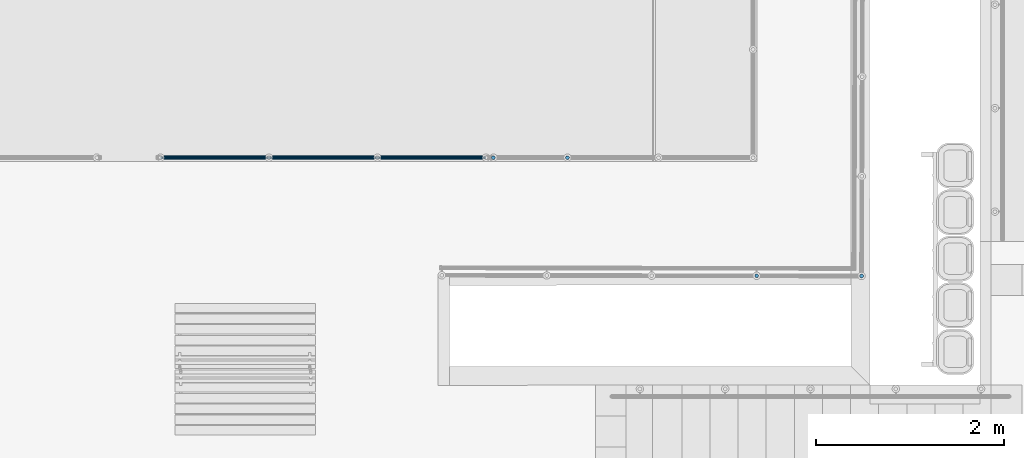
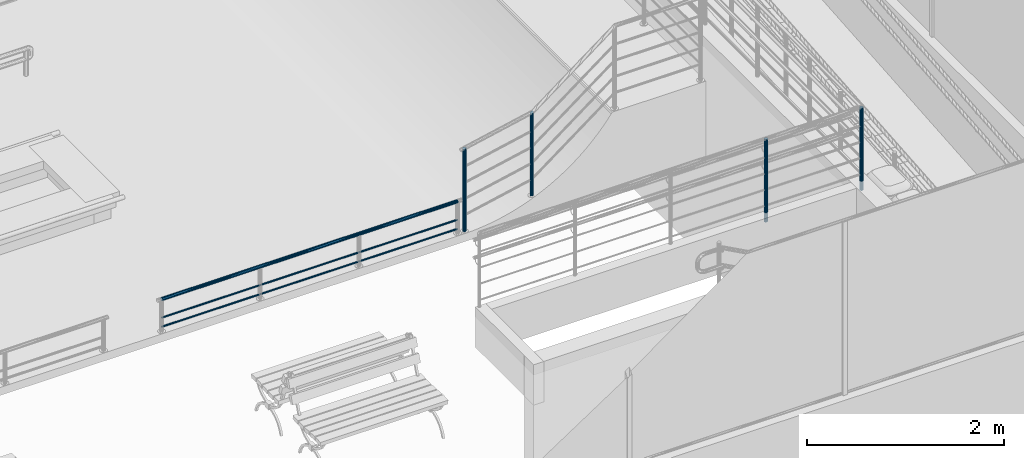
# One storey, part 42 of 237: 7 building element parts, 3 elements without a shape of their own.
"""IFC2X3 building model written with IfcOpenShell, lengths in millimetres."""

from ifc_helpers import new_model, entity, si_unit, converted_unit, derived_unit, money_unit, direction, frame, origin_with_axes, place, context, subcontext, project, spatial, faceted_brep, material, type_object, element, aggregate, save


model = new_model("IFC2X3")

# Units and contexts
model_context = context("Model", 3, precision=0.01, world=origin_with_axes(), true_north=direction((0.0, 1.0)))
body_context = subcontext(model_context, "Body", "Model", "MODEL_VIEW")
ifc_project = project(units=[si_unit("LENGTHUNIT", "METRE", prefix="MILLI"), si_unit("AREAUNIT", "SQUARE_METRE"), si_unit("VOLUMEUNIT", "CUBIC_METRE"), converted_unit("PLANEANGLEUNIT", "DEGREE", entity("IfcPlaneAngleMeasure", 0.0174532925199), si_unit("PLANEANGLEUNIT", "RADIAN"), dimensions=[0, 0, 0, 0, 0, 0, 0]), money_unit("USD"), converted_unit("TIMEUNIT", "Year", entity("IfcTimeMeasure", 31556926.0), si_unit("TIMEUNIT", "SECOND"), dimensions=[0, 0, 1, 0, 0, 0, 0]), si_unit("MASSUNIT", "GRAM", prefix="KILO"), si_unit("THERMODYNAMICTEMPERATUREUNIT", "DEGREE_CELSIUS"), si_unit("LUMINOUSINTENSITYUNIT", "LUMEN"), si_unit("ENERGYUNIT", "JOULE", prefix="MEGA"), derived_unit("THERMALCONDUCTANCEUNIT", [(si_unit("POWERUNIT", "WATT"), 1), (si_unit("LENGTHUNIT", "METRE"), -1), (si_unit("THERMODYNAMICTEMPERATUREUNIT", "KELVIN"), -1)]), derived_unit("SPECIFICHEATCAPACITYUNIT", [(si_unit("ENERGYUNIT", "JOULE"), 1), (si_unit("MASSUNIT", "GRAM", prefix="KILO"), -1), (si_unit("THERMODYNAMICTEMPERATUREUNIT", "KELVIN"), -1)]), derived_unit("MASSDENSITYUNIT", [(si_unit("MASSUNIT", "GRAM", prefix="KILO"), 1), (si_unit("VOLUMEUNIT", "CUBIC_METRE"), -1)])], contexts=[model_context])

# Site, building, storey
site_placement = place(None, origin_with_axes())
site = spatial("IfcSite", under=ifc_project, at=site_placement, Name="Local", CompositionType="ELEMENT")
building_placement = place(site_placement, origin_with_axes())
building = spatial("IfcBuilding", under=site, at=building_placement, Name="Construção", CompositionType="ELEMENT")
storey_placement = place(building_placement, origin_with_axes())
storey = spatial("IfcBuildingStorey", under=building, at=storey_placement, Name="Pavimento Térreo", CompositionType="ELEMENT", Elevation=0.0)

# Railing, building element parts
railing_type = type_object("IfcRailingType", Name="Tipo de Guarda-Corpo", PredefinedType="NOTDEFINED")
railing_1_placement = place(storey_placement, frame((58062.4440926, 28006.4497128, -1887.10818411), z_axis=(0.0, 0.0, 1.0), x_axis=(1.0, 0.0, 0.0)))
railing_1 = element("IfcRailing", 1, at=railing_1_placement, inside=storey, type_object=railing_type, Name="Guarda-Corpo - 002", PredefinedType="NOTDEFINED")
ifc_material = material(Name="Aço - Inoxidável")
building_element_part_1_placement = place(railing_1_placement, origin_with_axes())
building_element_part_1 = element("IfcBuildingElementPart", 2, at=building_element_part_1_placement, material=ifc_material, Name="Aço - Inoxidável", context=body_context, shape_type="Brep", body=[
    faceted_brep([(40.0, 98.4865411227, 1030.0), (40.0, 98.182696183, 1033.47296355), (3510.0, 98.182696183, 1033.47296355), (3510.0, 98.4865411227, 1030.0), (40.0, 98.182696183, 1026.52703645), (40.0, 97.2803935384, 1023.15959713), (40.0, 95.8070491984, 1020.0), (40.0, 93.8074299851, 1017.14424781), (40.0, 91.3422933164, 1014.67911114), (40.0, 88.4865411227, 1012.67949192), (40.0, 85.3269439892, 1011.20614758), (40.0, 81.9595046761, 1010.30384494), (40.0, 78.4865411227, 1010.0), (40.0, 75.0135775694, 1010.30384494), (40.0, 71.6461382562, 1011.20614758), (40.0, 68.4865411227, 1012.67949192), (40.0, 65.630788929, 1014.67911114), (40.0, 63.1656522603, 1017.14424781), (40.0, 61.166033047, 1020.0), (40.0, 59.692688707, 1023.15959713), (40.0, 58.7903860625, 1026.52703645), (40.0, 58.4865411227, 1030.0), (40.0, 58.7903860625, 1033.47296355), (40.0, 59.692688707, 1036.84040287), (40.0, 61.166033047, 1040.0), (40.0, 63.1656522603, 1042.85575219), (40.0, 65.630788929, 1045.32088886), (40.0, 68.4865411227, 1047.32050808), (40.0, 71.6461382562, 1048.79385242), (40.0, 75.0135775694, 1049.69615506), (40.0, 78.4865411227, 1050.0), (40.0, 81.9595046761, 1049.69615506), (40.0, 85.3269439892, 1048.79385242), (40.0, 88.4865411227, 1047.32050808), (40.0, 91.3422933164, 1045.32088886), (40.0, 93.8074299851, 1042.85575219), (40.0, 95.8070491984, 1040.0), (40.0, 97.2803935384, 1036.84040287), (3510.0, 97.2803935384, 1036.84040287), (3510.0, 95.8070491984, 1040.0), (3510.0, 93.8074299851, 1042.85575219), (3510.0, 91.3422933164, 1045.32088886), (3510.0, 88.4865411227, 1047.32050808), (3510.0, 85.3269439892, 1048.79385242), (3510.0, 81.9595046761, 1049.69615506), (3510.0, 78.4865411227, 1050.0), (3510.0, 75.0135775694, 1049.69615506), (3510.0, 71.6461382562, 1048.79385242), (3510.0, 68.4865411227, 1047.32050808), (3510.0, 65.630788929, 1045.32088886), (3510.0, 63.1656522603, 1042.85575219), (3510.0, 61.166033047, 1040.0), (3510.0, 59.692688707, 1036.84040287), (3510.0, 58.7903860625, 1033.47296355), (3510.0, 58.4865411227, 1030.0), (3510.0, 58.7903860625, 1026.52703645), (3510.0, 59.692688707, 1023.15959713), (3510.0, 61.166033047, 1020.0), (3510.0, 63.1656522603, 1017.14424781), (3510.0, 65.630788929, 1014.67911114), (3510.0, 68.4865411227, 1012.67949192), (3510.0, 71.6461382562, 1011.20614758), (3510.0, 75.0135775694, 1010.30384494), (3510.0, 78.4865411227, 1010.0), (3510.0, 81.9595046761, 1010.30384494), (3510.0, 85.3269439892, 1011.20614758), (3510.0, 88.4865411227, 1012.67949192), (3510.0, 91.3422933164, 1014.67911114), (3510.0, 93.8074299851, 1017.14424781), (3510.0, 95.8070491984, 1020.0), (3510.0, 97.2803935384, 1023.15959713), (3510.0, 98.182696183, 1026.52703645)], [[[0, 1, 2, 3]], [[0, 4, 5, 6, 7, 8, 9, 10, 11, 12, 13, 14, 15, 16, 17, 18, 19, 20, 21, 22, 23, 24, 25, 26, 27, 28, 29, 30, 31, 32, 33, 34, 35, 36, 37, 1]], [[1, 37, 38, 2]], [[3, 2, 38, 39, 40, 41, 42, 43, 44, 45, 46, 47, 48, 49, 50, 51, 52, 53, 54, 55, 56, 57, 58, 59, 60, 61, 62, 63, 64, 65, 66, 67, 68, 69, 70, 71]], [[4, 0, 3, 71]], [[5, 4, 71, 70]], [[6, 5, 70, 69]], [[7, 6, 69, 68]], [[8, 7, 68, 67]], [[9, 8, 67, 66]], [[10, 9, 66, 65]], [[11, 10, 65, 64]], [[12, 11, 64, 63]], [[13, 12, 63, 62]], [[14, 13, 62, 61]], [[15, 14, 61, 60]], [[16, 15, 60, 59]], [[17, 16, 59, 58]], [[18, 17, 58, 57]], [[19, 18, 57, 56]], [[20, 19, 56, 55]], [[21, 20, 55, 54]], [[22, 21, 54, 53]], [[23, 22, 53, 52]], [[24, 23, 52, 51]], [[25, 24, 51, 50]], [[26, 25, 50, 49]], [[27, 26, 49, 48]], [[28, 27, 48, 47]], [[29, 28, 47, 46]], [[30, 29, 46, 45]], [[31, 30, 45, 44]], [[32, 31, 44, 43]], [[33, 32, 43, 42]], [[34, 33, 42, 41]], [[35, 34, 41, 40]], [[36, 35, 40, 39]], [[37, 36, 39, 38]]]),
])
building_element_part_2_placement = place(railing_1_placement, origin_with_axes())
building_element_part_2 = element("IfcBuildingElementPart", 3, at=building_element_part_2_placement, material=ifc_material, Name="Aço - Inoxidável", context=body_context, shape_type="Brep", body=[
    faceted_brep([(40.0, 88.4865411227, 687.132352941), (40.0, 88.3346186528, 688.868834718), (3510.0, 88.3346186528, 688.868834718), (3510.0, 88.4865411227, 687.132352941), (40.0, 88.3346186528, 685.395871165), (40.0, 87.8834673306, 683.712151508), (40.0, 87.1467951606, 682.132352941), (40.0, 86.1469855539, 680.704476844), (40.0, 84.9144172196, 679.47190851), (40.0, 83.4865411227, 678.472098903), (40.0, 81.906742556, 677.735426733), (40.0, 80.2230228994, 677.284275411), (40.0, 78.4865411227, 677.132352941), (40.0, 76.7500593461, 677.284275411), (40.0, 75.0663396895, 677.735426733), (40.0, 73.4865411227, 678.472098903), (40.0, 72.0586650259, 679.47190851), (40.0, 70.8260966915, 680.704476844), (40.0, 69.8262870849, 682.132352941), (40.0, 69.0896149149, 683.712151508), (40.0, 68.6384635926, 685.395871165), (40.0, 68.4865411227, 687.132352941), (40.0, 68.6384635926, 688.868834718), (40.0, 69.0896149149, 690.552554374), (40.0, 69.8262870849, 692.132352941), (40.0, 70.8260966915, 693.560229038), (40.0, 72.0586650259, 694.792797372), (40.0, 73.4865411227, 695.792606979), (40.0, 75.0663396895, 696.529279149), (40.0, 76.7500593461, 696.980430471), (40.0, 78.4865411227, 697.132352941), (40.0, 80.2230228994, 696.980430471), (40.0, 81.906742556, 696.529279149), (40.0, 83.4865411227, 695.792606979), (40.0, 84.9144172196, 694.792797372), (40.0, 86.1469855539, 693.560229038), (40.0, 87.1467951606, 692.132352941), (40.0, 87.8834673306, 690.552554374), (3510.0, 87.8834673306, 690.552554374), (3510.0, 87.1467951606, 692.132352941), (3510.0, 86.1469855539, 693.560229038), (3510.0, 84.9144172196, 694.792797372), (3510.0, 83.4865411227, 695.792606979), (3510.0, 81.906742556, 696.529279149), (3510.0, 80.2230228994, 696.980430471), (3510.0, 78.4865411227, 697.132352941), (3510.0, 76.7500593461, 696.980430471), (3510.0, 75.0663396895, 696.529279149), (3510.0, 73.4865411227, 695.792606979), (3510.0, 72.0586650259, 694.792797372), (3510.0, 70.8260966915, 693.560229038), (3510.0, 69.8262870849, 692.132352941), (3510.0, 69.0896149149, 690.552554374), (3510.0, 68.6384635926, 688.868834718), (3510.0, 68.4865411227, 687.132352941), (3510.0, 68.6384635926, 685.395871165), (3510.0, 69.0896149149, 683.712151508), (3510.0, 69.8262870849, 682.132352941), (3510.0, 70.8260966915, 680.704476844), (3510.0, 72.0586650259, 679.47190851), (3510.0, 73.4865411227, 678.472098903), (3510.0, 75.0663396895, 677.735426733), (3510.0, 76.7500593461, 677.284275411), (3510.0, 78.4865411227, 677.132352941), (3510.0, 80.2230228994, 677.284275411), (3510.0, 81.906742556, 677.735426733), (3510.0, 83.4865411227, 678.472098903), (3510.0, 84.9144172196, 679.47190851), (3510.0, 86.1469855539, 680.704476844), (3510.0, 87.1467951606, 682.132352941), (3510.0, 87.8834673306, 683.712151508), (3510.0, 88.3346186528, 685.395871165)], [[[0, 1, 2, 3]], [[0, 4, 5, 6, 7, 8, 9, 10, 11, 12, 13, 14, 15, 16, 17, 18, 19, 20, 21, 22, 23, 24, 25, 26, 27, 28, 29, 30, 31, 32, 33, 34, 35, 36, 37, 1]], [[1, 37, 38, 2]], [[3, 2, 38, 39, 40, 41, 42, 43, 44, 45, 46, 47, 48, 49, 50, 51, 52, 53, 54, 55, 56, 57, 58, 59, 60, 61, 62, 63, 64, 65, 66, 67, 68, 69, 70, 71]], [[4, 0, 3, 71]], [[5, 4, 71, 70]], [[6, 5, 70, 69]], [[7, 6, 69, 68]], [[8, 7, 68, 67]], [[9, 8, 67, 66]], [[10, 9, 66, 65]], [[11, 10, 65, 64]], [[12, 11, 64, 63]], [[13, 12, 63, 62]], [[14, 13, 62, 61]], [[15, 14, 61, 60]], [[16, 15, 60, 59]], [[17, 16, 59, 58]], [[18, 17, 58, 57]], [[19, 18, 57, 56]], [[20, 19, 56, 55]], [[21, 20, 55, 54]], [[22, 21, 54, 53]], [[23, 22, 53, 52]], [[24, 23, 52, 51]], [[25, 24, 51, 50]], [[26, 25, 50, 49]], [[27, 26, 49, 48]], [[28, 27, 48, 47]], [[29, 28, 47, 46]], [[30, 29, 46, 45]], [[31, 30, 45, 44]], [[32, 31, 44, 43]], [[33, 32, 43, 42]], [[34, 33, 42, 41]], [[35, 34, 41, 40]], [[36, 35, 40, 39]], [[37, 36, 39, 38]]]),
])
building_element_part_3_placement = place(railing_1_placement, origin_with_axes())
building_element_part_3 = element("IfcBuildingElementPart", 4, at=building_element_part_3_placement, material=ifc_material, Name="Aço - Inoxidável", context=body_context, shape_type="Brep", body=[
    faceted_brep([(40.0, 88.4865411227, 800.0), (40.0, 88.3346186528, 801.736481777), (3510.0, 88.3346186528, 801.736481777), (3510.0, 88.4865411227, 800.0), (40.0, 88.3346186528, 798.263518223), (40.0, 87.8834673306, 796.579798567), (40.0, 87.1467951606, 795.0), (40.0, 86.1469855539, 793.572123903), (40.0, 84.9144172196, 792.339555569), (40.0, 83.4865411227, 791.339745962), (40.0, 81.906742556, 790.603073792), (40.0, 80.2230228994, 790.15192247), (40.0, 78.4865411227, 790.0), (40.0, 76.7500593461, 790.15192247), (40.0, 75.0663396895, 790.603073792), (40.0, 73.4865411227, 791.339745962), (40.0, 72.0586650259, 792.339555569), (40.0, 70.8260966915, 793.572123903), (40.0, 69.8262870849, 795.0), (40.0, 69.0896149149, 796.579798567), (40.0, 68.6384635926, 798.263518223), (40.0, 68.4865411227, 800.0), (40.0, 68.6384635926, 801.736481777), (40.0, 69.0896149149, 803.420201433), (40.0, 69.8262870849, 805.0), (40.0, 70.8260966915, 806.427876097), (40.0, 72.0586650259, 807.660444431), (40.0, 73.4865411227, 808.660254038), (40.0, 75.0663396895, 809.396926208), (40.0, 76.7500593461, 809.84807753), (40.0, 78.4865411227, 810.0), (40.0, 80.2230228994, 809.84807753), (40.0, 81.906742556, 809.396926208), (40.0, 83.4865411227, 808.660254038), (40.0, 84.9144172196, 807.660444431), (40.0, 86.1469855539, 806.427876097), (40.0, 87.1467951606, 805.0), (40.0, 87.8834673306, 803.420201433), (3510.0, 87.8834673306, 803.420201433), (3510.0, 87.1467951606, 805.0), (3510.0, 86.1469855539, 806.427876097), (3510.0, 84.9144172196, 807.660444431), (3510.0, 83.4865411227, 808.660254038), (3510.0, 81.906742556, 809.396926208), (3510.0, 80.2230228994, 809.84807753), (3510.0, 78.4865411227, 810.0), (3510.0, 76.7500593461, 809.84807753), (3510.0, 75.0663396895, 809.396926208), (3510.0, 73.4865411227, 808.660254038), (3510.0, 72.0586650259, 807.660444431), (3510.0, 70.8260966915, 806.427876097), (3510.0, 69.8262870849, 805.0), (3510.0, 69.0896149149, 803.420201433), (3510.0, 68.6384635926, 801.736481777), (3510.0, 68.4865411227, 800.0), (3510.0, 68.6384635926, 798.263518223), (3510.0, 69.0896149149, 796.579798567), (3510.0, 69.8262870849, 795.0), (3510.0, 70.8260966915, 793.572123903), (3510.0, 72.0586650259, 792.339555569), (3510.0, 73.4865411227, 791.339745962), (3510.0, 75.0663396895, 790.603073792), (3510.0, 76.7500593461, 790.15192247), (3510.0, 78.4865411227, 790.0), (3510.0, 80.2230228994, 790.15192247), (3510.0, 81.906742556, 790.603073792), (3510.0, 83.4865411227, 791.339745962), (3510.0, 84.9144172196, 792.339555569), (3510.0, 86.1469855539, 793.572123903), (3510.0, 87.1467951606, 795.0), (3510.0, 87.8834673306, 796.579798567), (3510.0, 88.3346186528, 798.263518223)], [[[0, 1, 2, 3]], [[0, 4, 5, 6, 7, 8, 9, 10, 11, 12, 13, 14, 15, 16, 17, 18, 19, 20, 21, 22, 23, 24, 25, 26, 27, 28, 29, 30, 31, 32, 33, 34, 35, 36, 37, 1]], [[1, 37, 38, 2]], [[3, 2, 38, 39, 40, 41, 42, 43, 44, 45, 46, 47, 48, 49, 50, 51, 52, 53, 54, 55, 56, 57, 58, 59, 60, 61, 62, 63, 64, 65, 66, 67, 68, 69, 70, 71]], [[4, 0, 3, 71]], [[5, 4, 71, 70]], [[6, 5, 70, 69]], [[7, 6, 69, 68]], [[8, 7, 68, 67]], [[9, 8, 67, 66]], [[10, 9, 66, 65]], [[11, 10, 65, 64]], [[12, 11, 64, 63]], [[13, 12, 63, 62]], [[14, 13, 62, 61]], [[15, 14, 61, 60]], [[16, 15, 60, 59]], [[17, 16, 59, 58]], [[18, 17, 58, 57]], [[19, 18, 57, 56]], [[20, 19, 56, 55]], [[21, 20, 55, 54]], [[22, 21, 54, 53]], [[23, 22, 53, 52]], [[24, 23, 52, 51]], [[25, 24, 51, 50]], [[26, 25, 50, 49]], [[27, 26, 49, 48]], [[28, 27, 48, 47]], [[29, 28, 47, 46]], [[30, 29, 46, 45]], [[31, 30, 45, 44]], [[32, 31, 44, 43]], [[33, 32, 43, 42]], [[34, 33, 42, 41]], [[35, 34, 41, 40]], [[36, 35, 40, 39]], [[37, 36, 39, 38]]]),
])
aggregate(railing_1, [building_element_part_1, building_element_part_2, building_element_part_3])

railing_2_placement = place(storey_placement, frame((70326.6870103, 28675.2458388, -1357.10819655), z_axis=(0.0, 0.0, 1.0), x_axis=(1.0, 0.0, 0.0)))
railing_2 = element("IfcRailing", 5, at=railing_2_placement, inside=storey, type_object=railing_type, Name="Guarda-Corpo - 004", PredefinedType="NOTDEFINED")
building_element_part_4_placement = place(railing_2_placement, origin_with_axes())
building_element_part_4 = element("IfcBuildingElementPart", 6, at=building_element_part_4_placement, material=ifc_material, Name="Aço - Inoxidável", context=body_context, shape_type="Brep", body=[
    faceted_brep([(-4750.84743411, -1872.37618805, 5.0), (-4747.37496013, -1872.68557785, 5.0), (-4747.37496013, -1872.68557785, 1030.0), (-4750.84743411, -1872.37618805, 1030.0), (-4743.90151586, -1872.38727855, 5.0), (-4754.21342843, -1871.46850979, 5.0), (-4757.37066906, -1869.99012243, 5.0), (-4760.22322484, -1867.98594601, 5.0), (-4762.6844223, -1865.51687642, 5.0), (-4764.67947921, -1862.65793509, 5.0), (-4766.14777677, -1859.49598951, 5.0), (-4767.04470151, -1856.12711379, 5.0), (-4767.34300081, -1852.65366952, 5.0), (-4767.033611, -1849.18119554, 5.0), (-4766.12593275, -1845.81520121, 5.0), (-4764.64754538, -1842.65796058, 5.0), (-4762.64336896, -1839.80540481, 5.0), (-4760.17429937, -1837.34420734, 5.0), (-4757.31535805, -1835.34915043, 5.0), (-4754.15341246, -1833.88085287, 5.0), (-4750.78453674, -1832.98392814, 5.0), (-4747.31109247, -1832.68562884, 5.0), (-4743.83861849, -1832.99501864, 5.0), (-4740.47262417, -1833.9026969, 5.0), (-4737.31538354, -1835.38108426, 5.0), (-4734.46282776, -1837.38526068, 5.0), (-4732.0016303, -1839.85433027, 5.0), (-4730.00657339, -1842.7132716, 5.0), (-4728.53827583, -1845.87521718, 5.0), (-4727.6413511, -1849.2440929, 5.0), (-4727.3430518, -1852.71753718, 5.0), (-4727.6524416, -1856.19001115, 5.0), (-4728.56011986, -1859.55600548, 5.0), (-4730.03850722, -1862.71324611, 5.0), (-4732.04268364, -1865.56580188, 5.0), (-4734.51175323, -1868.02699935, 5.0), (-4737.37069456, -1870.02205626, 5.0), (-4740.53264014, -1871.49035382, 5.0), (-4743.90151586, -1872.38727855, 1030.0), (-4767.033611, -1849.18119554, 1030.0), (-4767.34300081, -1852.65366952, 1030.0), (-4767.04470151, -1856.12711379, 1030.0), (-4766.14777677, -1859.49598951, 1030.0), (-4764.67947921, -1862.65793509, 1030.0), (-4762.6844223, -1865.51687642, 1030.0), (-4760.22322484, -1867.98594601, 1030.0), (-4757.37066906, -1869.99012243, 1030.0), (-4754.21342843, -1871.46850979, 1030.0), (-4740.53264014, -1871.49035382, 1030.0), (-4737.37069456, -1870.02205626, 1030.0), (-4734.51175323, -1868.02699935, 1030.0), (-4732.04268364, -1865.56580188, 1030.0), (-4730.03850722, -1862.71324611, 1030.0), (-4728.56011986, -1859.55600548, 1030.0), (-4727.6524416, -1856.19001115, 1030.0), (-4727.3430518, -1852.71753718, 1030.0), (-4727.6413511, -1849.2440929, 1030.0), (-4728.53827583, -1845.87521718, 1030.0), (-4730.00657339, -1842.7132716, 1030.0), (-4732.0016303, -1839.85433027, 1030.0), (-4734.46282776, -1837.38526068, 1030.0), (-4737.31538354, -1835.38108426, 1030.0), (-4740.47262417, -1833.9026969, 1030.0), (-4743.83861849, -1832.99501864, 1030.0), (-4747.31109247, -1832.68562884, 1030.0), (-4750.78453674, -1832.98392814, 1030.0), (-4754.15341246, -1833.88085287, 1030.0), (-4757.31535805, -1835.34915043, 1030.0), (-4760.17429937, -1837.34420734, 1030.0), (-4762.64336896, -1839.80540481, 1030.0), (-4764.64754538, -1842.65796058, 1030.0), (-4766.12593275, -1845.81520121, 1030.0)], [[[0, 1, 2, 3]], [[4, 1, 0, 5, 6, 7, 8, 9, 10, 11, 12, 13, 14, 15, 16, 17, 18, 19, 20, 21, 22, 23, 24, 25, 26, 27, 28, 29, 30, 31, 32, 33, 34, 35, 36, 37]], [[1, 4, 38, 2]], [[39, 40, 41, 42, 43, 44, 45, 46, 47, 3, 2, 38, 48, 49, 50, 51, 52, 53, 54, 55, 56, 57, 58, 59, 60, 61, 62, 63, 64, 65, 66, 67, 68, 69, 70, 71]], [[5, 0, 3, 47]], [[6, 5, 47, 46]], [[7, 6, 46, 45]], [[8, 7, 45, 44]], [[9, 8, 44, 43]], [[10, 9, 43, 42]], [[11, 10, 42, 41]], [[12, 11, 41, 40]], [[13, 12, 40, 39]], [[14, 13, 39, 71]], [[15, 14, 71, 70]], [[16, 15, 70, 69]], [[17, 16, 69, 68]], [[18, 17, 68, 67]], [[19, 18, 67, 66]], [[20, 19, 66, 65]], [[21, 20, 65, 64]], [[22, 21, 64, 63]], [[23, 22, 63, 62]], [[24, 23, 62, 61]], [[25, 24, 61, 60]], [[26, 25, 60, 59]], [[27, 26, 59, 58]], [[28, 27, 58, 57]], [[29, 28, 57, 56]], [[30, 29, 56, 55]], [[31, 30, 55, 54]], [[32, 31, 54, 53]], [[33, 32, 53, 52]], [[34, 33, 52, 51]], [[35, 34, 51, 50]], [[36, 35, 50, 49]], [[37, 36, 49, 48]], [[4, 37, 48, 38]]]),
])
building_element_part_5_placement = place(railing_2_placement, origin_with_axes())
building_element_part_5 = element("IfcBuildingElementPart", 7, at=building_element_part_5_placement, material=ifc_material, Name="Aço - Inoxidável", context=body_context, shape_type="Brep", body=[
    faceted_brep([(-5870.09426693, -1870.58909387, 5.0), (-5866.62179295, -1870.89848367, 5.0), (-5866.62179295, -1870.89848367, 1030.0), (-5870.09426693, -1870.58909387, 1030.0), (-5863.14834867, -1870.60018437, 5.0), (-5873.46026125, -1869.68141561, 5.0), (-5876.61750188, -1868.20302825, 5.0), (-5879.47005766, -1866.19885183, 5.0), (-5881.93125512, -1863.72978224, 5.0), (-5883.92631203, -1860.87084091, 5.0), (-5885.39460959, -1857.70889533, 5.0), (-5886.29153432, -1854.34001961, 5.0), (-5886.58983362, -1850.86657534, 5.0), (-5886.28044382, -1847.39410136, 5.0), (-5885.37276556, -1844.02810704, 5.0), (-5883.8943782, -1840.87086641, 5.0), (-5881.89020178, -1838.01831063, 5.0), (-5879.42113219, -1835.55711316, 5.0), (-5876.56219086, -1833.56205626, 5.0), (-5873.40024528, -1832.0937587, 5.0), (-5870.03136956, -1831.19683396, 5.0), (-5866.55792529, -1830.89853466, 5.0), (-5863.08545131, -1831.20792447, 5.0), (-5859.71945699, -1832.11560272, 5.0), (-5856.56221636, -1833.59399009, 5.0), (-5853.70966058, -1835.59816651, 5.0), (-5851.24846312, -1838.06723609, 5.0), (-5849.25340621, -1840.92617742, 5.0), (-5847.78510865, -1844.08812301, 5.0), (-5846.88818391, -1847.45699872, 5.0), (-5846.58988461, -1850.930443, 5.0), (-5846.89927442, -1854.40291698, 5.0), (-5847.80695267, -1857.7689113, 5.0), (-5849.28534004, -1860.92615193, 5.0), (-5851.28951646, -1863.77870771, 5.0), (-5853.75858604, -1866.23990517, 5.0), (-5856.61752737, -1868.23496208, 5.0), (-5859.77947296, -1869.70325964, 5.0), (-5863.14834867, -1870.60018437, 1030.0), (-5886.28044382, -1847.39410136, 1030.0), (-5886.58983362, -1850.86657534, 1030.0), (-5886.29153432, -1854.34001961, 1030.0), (-5885.39460959, -1857.70889533, 1030.0), (-5883.92631203, -1860.87084091, 1030.0), (-5881.93125512, -1863.72978224, 1030.0), (-5879.47005766, -1866.19885183, 1030.0), (-5876.61750188, -1868.20302825, 1030.0), (-5873.46026125, -1869.68141561, 1030.0), (-5859.77947296, -1869.70325964, 1030.0), (-5856.61752737, -1868.23496208, 1030.0), (-5853.75858604, -1866.23990517, 1030.0), (-5851.28951646, -1863.77870771, 1030.0), (-5849.28534004, -1860.92615193, 1030.0), (-5847.80695267, -1857.7689113, 1030.0), (-5846.89927442, -1854.40291698, 1030.0), (-5846.58988461, -1850.930443, 1030.0), (-5846.88818391, -1847.45699872, 1030.0), (-5847.78510865, -1844.08812301, 1030.0), (-5849.25340621, -1840.92617742, 1030.0), (-5851.24846312, -1838.06723609, 1030.0), (-5853.70966058, -1835.59816651, 1030.0), (-5856.56221636, -1833.59399009, 1030.0), (-5859.71945699, -1832.11560272, 1030.0), (-5863.08545131, -1831.20792447, 1030.0), (-5866.55792529, -1830.89853466, 1030.0), (-5870.03136956, -1831.19683396, 1030.0), (-5873.40024528, -1832.0937587, 1030.0), (-5876.56219086, -1833.56205626, 1030.0), (-5879.42113219, -1835.55711316, 1030.0), (-5881.89020178, -1838.01831063, 1030.0), (-5883.8943782, -1840.87086641, 1030.0), (-5885.37276556, -1844.02810704, 1030.0)], [[[0, 1, 2, 3]], [[4, 1, 0, 5, 6, 7, 8, 9, 10, 11, 12, 13, 14, 15, 16, 17, 18, 19, 20, 21, 22, 23, 24, 25, 26, 27, 28, 29, 30, 31, 32, 33, 34, 35, 36, 37]], [[1, 4, 38, 2]], [[39, 40, 41, 42, 43, 44, 45, 46, 47, 3, 2, 38, 48, 49, 50, 51, 52, 53, 54, 55, 56, 57, 58, 59, 60, 61, 62, 63, 64, 65, 66, 67, 68, 69, 70, 71]], [[5, 0, 3, 47]], [[6, 5, 47, 46]], [[7, 6, 46, 45]], [[8, 7, 45, 44]], [[9, 8, 44, 43]], [[10, 9, 43, 42]], [[11, 10, 42, 41]], [[12, 11, 41, 40]], [[13, 12, 40, 39]], [[14, 13, 39, 71]], [[15, 14, 71, 70]], [[16, 15, 70, 69]], [[17, 16, 69, 68]], [[18, 17, 68, 67]], [[19, 18, 67, 66]], [[20, 19, 66, 65]], [[21, 20, 65, 64]], [[22, 21, 64, 63]], [[23, 22, 63, 62]], [[24, 23, 62, 61]], [[25, 24, 61, 60]], [[26, 25, 60, 59]], [[27, 26, 59, 58]], [[28, 27, 58, 57]], [[29, 28, 57, 56]], [[30, 29, 56, 55]], [[31, 30, 55, 54]], [[32, 31, 54, 53]], [[33, 32, 53, 52]], [[34, 33, 52, 51]], [[35, 34, 51, 50]], [[36, 35, 50, 49]], [[37, 36, 49, 48]], [[4, 37, 48, 38]]]),
])
aggregate(railing_2, [building_element_part_4, building_element_part_5])

railing_3_placement = place(storey_placement, frame((61612.4440926, 28006.4497128, -1265.99547451), z_axis=(0.0, 0.0, 1.0), x_axis=(-1.0, 0.0, 0.0)))
railing_3 = element("IfcRailing", 8, at=railing_3_placement, inside=storey, type_object=railing_type, Name="Guarda-Corpo - 001", PredefinedType="NOTDEFINED")
building_element_part_6_placement = place(railing_3_placement, origin_with_axes())
building_element_part_6 = element("IfcBuildingElementPart", 9, at=building_element_part_6_placement, material=ifc_material, Name="Aço - Inoxidável", context=body_context, shape_type="Brep", body=[
    faceted_brep([(-36.5270364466, -58.7903860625, 13.4412193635), (-40.0, -58.4865411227, 13.4412193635), (-40.0, -58.4865411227, 1038.44121936), (-36.5270364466, -58.7903860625, 1037.70831818), (-43.4729635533, -58.7903860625, 13.4412193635), (-33.1595971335, -59.692688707, 13.4412193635), (-30.0, -61.166033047, 13.4412193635), (-27.1442478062, -63.1656522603, 13.4412193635), (-24.6791111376, -65.630788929, 13.4412193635), (-22.6794919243, -68.4865411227, 13.4412193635), (-21.2061475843, -71.6461382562, 13.4412193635), (-20.3038449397, -75.0135775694, 13.4412193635), (-20.0, -78.4865411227, 13.4412193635), (-20.3038449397, -81.9595046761, 13.4412193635), (-21.2061475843, -85.3269439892, 13.4412193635), (-22.6794919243, -88.4865411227, 13.4412193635), (-24.6791111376, -91.3422933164, 13.4412193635), (-27.1442478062, -93.8074299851, 13.4412193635), (-30.0, -95.8070491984, 13.4412193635), (-33.1595971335, -97.2803935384, 13.4412193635), (-36.5270364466, -98.182696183, 13.4412193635), (-40.0, -98.4865411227, 13.4412193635), (-43.4729635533, -98.182696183, 13.4412193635), (-46.8404028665, -97.2803935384, 13.4412193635), (-50.0, -95.8070491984, 13.4412193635), (-52.8557521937, -93.8074299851, 13.4412193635), (-55.3208888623, -91.3422933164, 13.4412193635), (-57.3205080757, -88.4865411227, 13.4412193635), (-58.7938524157, -85.3269439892, 13.4412193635), (-59.6961550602, -81.9595046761, 13.4412193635), (-60.0, -78.4865411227, 13.4412193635), (-59.6961550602, -75.0135775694, 13.4412193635), (-58.7938524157, -71.6461382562, 13.4412193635), (-57.3205080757, -68.4865411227, 13.4412193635), (-55.3208888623, -65.630788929, 13.4412193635), (-52.8557521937, -63.1656522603, 13.4412193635), (-50.0, -61.166033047, 13.4412193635), (-46.8404028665, -59.692688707, 13.4412193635), (-43.4729635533, -58.7903860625, 1039.17412054), (-20.3038449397, -81.9595046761, 1034.28473023), (-20.0, -78.4865411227, 1034.22060968), (-20.3038449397, -75.0135775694, 1034.28473023), (-21.2061475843, -71.6461382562, 1034.47514359), (-22.6794919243, -68.4865411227, 1034.78606416), (-24.6791111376, -65.630788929, 1035.20804477), (-27.1442478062, -63.1656522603, 1035.72826375), (-30.0, -61.166033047, 1036.33091452), (-33.1595971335, -59.692688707, 1036.99768584), (-46.8404028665, -59.692688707, 1039.88475289), (-50.0, -61.166033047, 1040.5515242), (-52.8557521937, -63.1656522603, 1041.15417497), (-55.3208888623, -65.630788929, 1041.67439396), (-57.3205080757, -68.4865411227, 1042.09637457), (-58.7938524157, -71.6461382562, 1042.40729514), (-59.6961550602, -75.0135775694, 1042.5977085), (-60.0, -78.4865411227, 1042.66182905), (-59.6961550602, -81.9595046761, 1042.5977085), (-58.7938524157, -85.3269439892, 1042.40729514), (-57.3205080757, -88.4865411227, 1042.09637457), (-55.3208888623, -91.3422933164, 1041.67439396), (-52.8557521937, -93.8074299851, 1041.15417497), (-50.0, -95.8070491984, 1040.5515242), (-46.8404028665, -97.2803935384, 1039.88475289), (-43.4729635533, -98.182696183, 1039.17412054), (-40.0, -98.4865411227, 1038.44121936), (-36.5270364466, -98.182696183, 1037.70831818), (-33.1595971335, -97.2803935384, 1036.99768584), (-30.0, -95.8070491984, 1036.33091452), (-27.1442478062, -93.8074299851, 1035.72826375), (-24.6791111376, -91.3422933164, 1035.20804477), (-22.6794919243, -88.4865411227, 1034.78606416), (-21.2061475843, -85.3269439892, 1034.47514359)], [[[0, 1, 2, 3]], [[4, 1, 0, 5, 6, 7, 8, 9, 10, 11, 12, 13, 14, 15, 16, 17, 18, 19, 20, 21, 22, 23, 24, 25, 26, 27, 28, 29, 30, 31, 32, 33, 34, 35, 36, 37]], [[1, 4, 38, 2]], [[39, 40, 41, 42, 43, 44, 45, 46, 47, 3, 2, 38, 48, 49, 50, 51, 52, 53, 54, 55, 56, 57, 58, 59, 60, 61, 62, 63, 64, 65, 66, 67, 68, 69, 70, 71]], [[5, 0, 3, 47]], [[6, 5, 47, 46]], [[7, 6, 46, 45]], [[8, 7, 45, 44]], [[9, 8, 44, 43]], [[10, 9, 43, 42]], [[11, 10, 42, 41]], [[12, 11, 41, 40]], [[13, 12, 40, 39]], [[14, 13, 39, 71]], [[15, 14, 71, 70]], [[16, 15, 70, 69]], [[17, 16, 69, 68]], [[18, 17, 68, 67]], [[19, 18, 67, 66]], [[20, 19, 66, 65]], [[21, 20, 65, 64]], [[22, 21, 64, 63]], [[23, 22, 63, 62]], [[24, 23, 62, 61]], [[25, 24, 61, 60]], [[26, 25, 60, 59]], [[27, 26, 59, 58]], [[28, 27, 58, 57]], [[29, 28, 57, 56]], [[30, 29, 56, 55]], [[31, 30, 55, 54]], [[32, 31, 54, 53]], [[33, 32, 53, 52]], [[34, 33, 52, 51]], [[35, 34, 51, 50]], [[36, 35, 50, 49]], [[37, 36, 49, 48]], [[4, 37, 48, 38]]]),
])
building_element_part_7_placement = place(railing_3_placement, origin_with_axes())
building_element_part_7 = element("IfcBuildingElementPart", 10, at=building_element_part_7_placement, material=ifc_material, Name="Aço - Inoxidável", context=body_context, shape_type="Brep", body=[
    faceted_brep([(-826.402181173, -58.7903860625, 180.128953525), (-829.875144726, -58.4865411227, 180.128953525), (-829.875144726, -58.4865411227, 1205.12895352), (-826.402181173, -58.7903860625, 1203.54739472), (-833.34810828, -58.7903860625, 180.128953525), (-823.03474186, -59.692688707, 180.128953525), (-819.875144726, -61.166033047, 180.128953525), (-817.019392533, -63.1656522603, 180.128953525), (-814.554255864, -65.630788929, 180.128953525), (-812.554636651, -68.4865411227, 180.128953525), (-811.081292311, -71.6461382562, 180.128953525), (-810.178989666, -75.0135775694, 180.128953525), (-809.875144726, -78.4865411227, 180.128953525), (-810.178989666, -81.9595046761, 180.128953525), (-811.081292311, -85.3269439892, 180.128953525), (-812.554636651, -88.4865411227, 180.128953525), (-814.554255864, -91.3422933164, 180.128953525), (-817.019392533, -93.8074299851, 180.128953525), (-819.875144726, -95.8070491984, 180.128953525), (-823.03474186, -97.2803935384, 180.128953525), (-826.402181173, -98.182696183, 180.128953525), (-829.875144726, -98.4865411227, 180.128953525), (-833.34810828, -98.182696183, 180.128953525), (-836.715547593, -97.2803935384, 180.128953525), (-839.875144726, -95.8070491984, 180.128953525), (-842.73089692, -93.8074299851, 180.128953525), (-845.196033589, -91.3422933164, 180.128953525), (-847.195652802, -88.4865411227, 180.128953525), (-848.668997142, -85.3269439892, 180.128953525), (-849.571299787, -81.9595046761, 180.128953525), (-849.875144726, -78.4865411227, 180.128953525), (-849.571299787, -75.0135775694, 180.128953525), (-848.668997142, -71.6461382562, 180.128953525), (-847.195652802, -68.4865411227, 180.128953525), (-845.196033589, -65.630788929, 180.128953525), (-842.73089692, -63.1656522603, 180.128953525), (-839.875144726, -61.166033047, 180.128953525), (-836.715547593, -59.692688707, 180.128953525), (-833.34810828, -58.7903860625, 1206.71051233), (-810.178989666, -81.9595046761, 1196.15948783), (-809.875144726, -78.4865411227, 1196.02111936), (-810.178989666, -75.0135775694, 1196.15948783), (-811.081292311, -71.6461382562, 1196.57038897), (-812.554636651, -68.4865411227, 1197.24133777), (-814.554255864, -65.630788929, 1198.15194778), (-817.019392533, -63.1656522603, 1199.27455057), (-819.875144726, -61.166033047, 1200.57503644), (-823.03474186, -59.692688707, 1202.01389078), (-836.715547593, -59.692688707, 1208.24401627), (-839.875144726, -61.166033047, 1209.68287061), (-842.73089692, -63.1656522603, 1210.98335647), (-845.196033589, -65.630788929, 1212.10595927), (-847.195652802, -68.4865411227, 1213.01656928), (-848.668997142, -71.6461382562, 1213.68751808), (-849.571299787, -75.0135775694, 1214.09841922), (-849.875144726, -78.4865411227, 1214.23678769), (-849.571299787, -81.9595046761, 1214.09841922), (-848.668997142, -85.3269439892, 1213.68751808), (-847.195652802, -88.4865411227, 1213.01656928), (-845.196033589, -91.3422933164, 1212.10595927), (-842.73089692, -93.8074299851, 1210.98335647), (-839.875144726, -95.8070491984, 1209.68287061), (-836.715547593, -97.2803935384, 1208.24401627), (-833.34810828, -98.182696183, 1206.71051233), (-829.875144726, -98.4865411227, 1205.12895352), (-826.402181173, -98.182696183, 1203.54739472), (-823.03474186, -97.2803935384, 1202.01389078), (-819.875144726, -95.8070491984, 1200.57503644), (-817.019392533, -93.8074299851, 1199.27455057), (-814.554255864, -91.3422933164, 1198.15194778), (-812.554636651, -88.4865411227, 1197.24133777), (-811.081292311, -85.3269439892, 1196.57038897)], [[[0, 1, 2, 3]], [[4, 1, 0, 5, 6, 7, 8, 9, 10, 11, 12, 13, 14, 15, 16, 17, 18, 19, 20, 21, 22, 23, 24, 25, 26, 27, 28, 29, 30, 31, 32, 33, 34, 35, 36, 37]], [[1, 4, 38, 2]], [[39, 40, 41, 42, 43, 44, 45, 46, 47, 3, 2, 38, 48, 49, 50, 51, 52, 53, 54, 55, 56, 57, 58, 59, 60, 61, 62, 63, 64, 65, 66, 67, 68, 69, 70, 71]], [[5, 0, 3, 47]], [[6, 5, 47, 46]], [[7, 6, 46, 45]], [[8, 7, 45, 44]], [[9, 8, 44, 43]], [[10, 9, 43, 42]], [[11, 10, 42, 41]], [[12, 11, 41, 40]], [[13, 12, 40, 39]], [[14, 13, 39, 71]], [[15, 14, 71, 70]], [[16, 15, 70, 69]], [[17, 16, 69, 68]], [[18, 17, 68, 67]], [[19, 18, 67, 66]], [[20, 19, 66, 65]], [[21, 20, 65, 64]], [[22, 21, 64, 63]], [[23, 22, 63, 62]], [[24, 23, 62, 61]], [[25, 24, 61, 60]], [[26, 25, 60, 59]], [[27, 26, 59, 58]], [[28, 27, 58, 57]], [[29, 28, 57, 56]], [[30, 29, 56, 55]], [[31, 30, 55, 54]], [[32, 31, 54, 53]], [[33, 32, 53, 52]], [[34, 33, 52, 51]], [[35, 34, 51, 50]], [[36, 35, 50, 49]], [[37, 36, 49, 48]], [[4, 37, 48, 38]]]),
])
aggregate(railing_3, [building_element_part_6, building_element_part_7])

save(model, "model.ifc")
